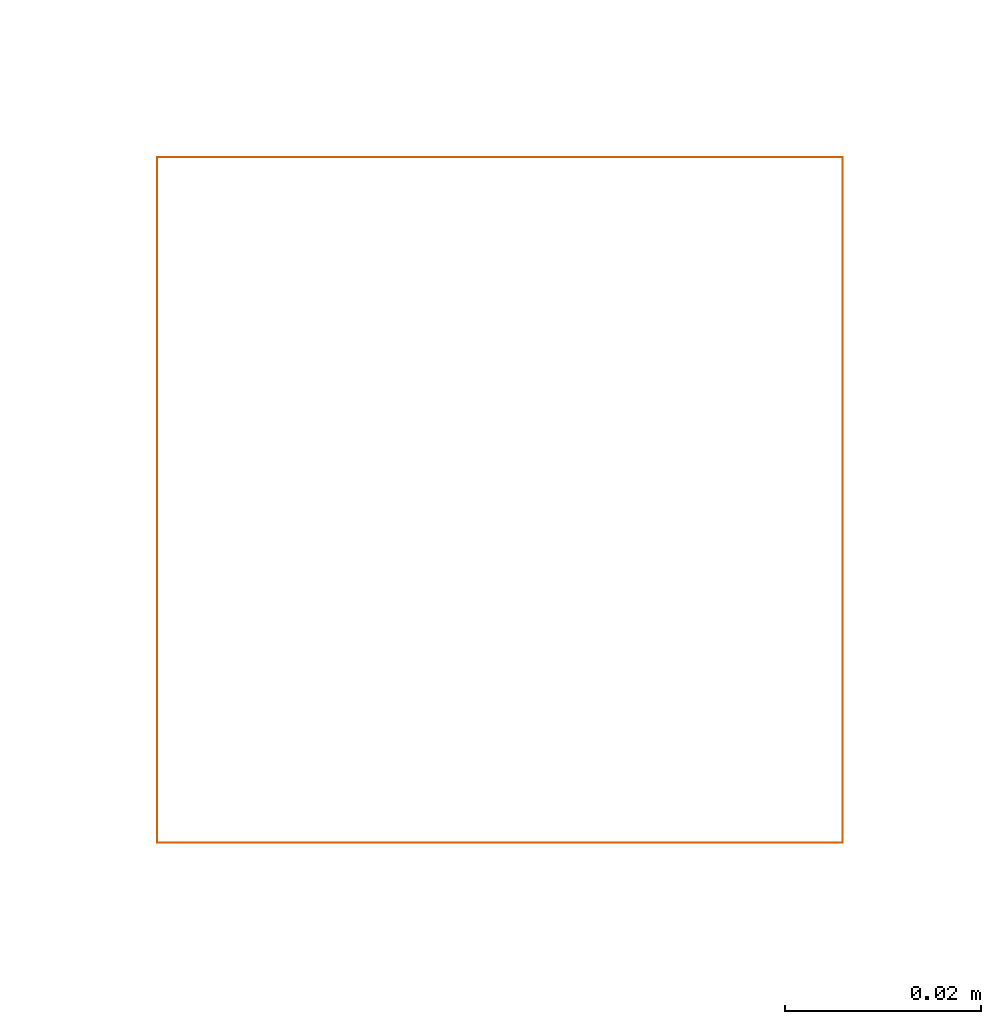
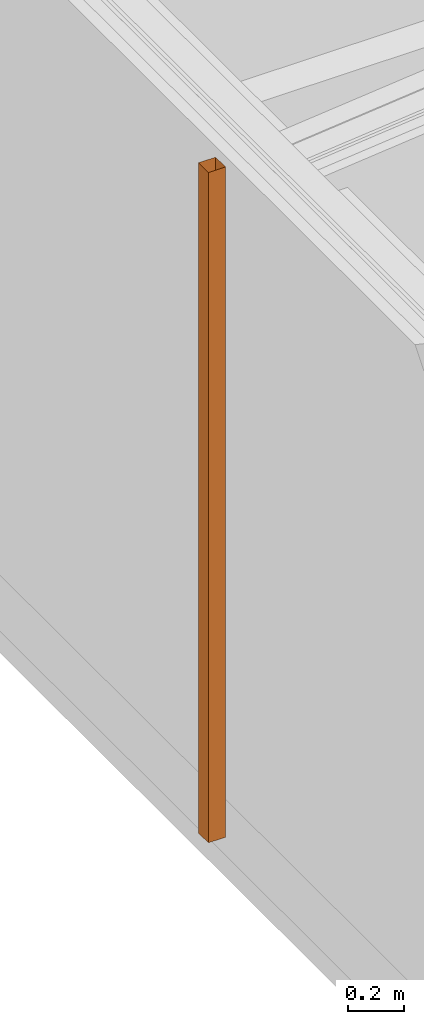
# One storey, part 75 of 112: 1 proxy.
"""IFC2X3 building model written with IfcOpenShell, lengths in millimetres."""

from ifc_helpers import new_model, entity, si_unit, converted_unit, derived_unit, money_unit, direction, frame, origin_with_axes, place, context, subcontext, project, spatial, open_shell, surface_model, source, transform, mapped, type_object, element, save


model = new_model("IFC2X3")

# Units and contexts
model_context = context("Model", 3, precision=0.01, world=origin_with_axes(), true_north=direction((0.0, 1.0)))
body_context = subcontext(model_context, "Body", "Model", "MODEL_VIEW")
ifc_project = project(units=[si_unit("LENGTHUNIT", "METRE", prefix="MILLI"), si_unit("AREAUNIT", "SQUARE_METRE"), si_unit("VOLUMEUNIT", "CUBIC_METRE"), converted_unit("PLANEANGLEUNIT", "DEGREE", entity("IfcPlaneAngleMeasure", 0.0174532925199), si_unit("PLANEANGLEUNIT", "RADIAN"), dimensions=[0, 0, 0, 0, 0, 0, 0]), si_unit("SOLIDANGLEUNIT", "STERADIAN"), money_unit("EUR"), converted_unit("TIMEUNIT", "Year", entity("IfcTimeMeasure", 31556926.0), si_unit("TIMEUNIT", "SECOND"), dimensions=[0, 0, 1, 0, 0, 0, 0]), si_unit("MASSUNIT", "GRAM", prefix="KILO"), si_unit("THERMODYNAMICTEMPERATUREUNIT", "DEGREE_CELSIUS"), si_unit("LUMINOUSINTENSITYUNIT", "LUMEN"), si_unit("ENERGYUNIT", "JOULE", prefix="MEGA"), derived_unit("THERMALCONDUCTANCEUNIT", [(si_unit("POWERUNIT", "WATT"), 1), (si_unit("LENGTHUNIT", "METRE"), -1), (si_unit("THERMODYNAMICTEMPERATUREUNIT", "KELVIN"), -1)]), derived_unit("SPECIFICHEATCAPACITYUNIT", [(si_unit("ENERGYUNIT", "JOULE"), 1), (si_unit("MASSUNIT", "GRAM", prefix="KILO"), -1), (si_unit("THERMODYNAMICTEMPERATUREUNIT", "KELVIN"), -1)]), derived_unit("MASSDENSITYUNIT", [(si_unit("MASSUNIT", "GRAM", prefix="KILO"), 1), (si_unit("VOLUMEUNIT", "CUBIC_METRE"), -1)])], contexts=[model_context])

# Site, building, storey
site_placement = place(None, origin_with_axes())
site = spatial("IfcSite", under=ifc_project, at=site_placement, Name="Politse- ja Piirivalveameti ning Päästeameti ühishoone", CompositionType="ELEMENT")
building_placement = place(site_placement, origin_with_axes())
building = spatial("IfcBuilding", under=site, at=building_placement, Name="Politse- ja Piirivalveameti ning Päästeameti ühishoone", CompositionType="ELEMENT")
storey_placement = place(building_placement, origin_with_axes())
storey = spatial("IfcBuildingStorey", under=building, at=storey_placement, Name="Esimene korrus", CompositionType="ELEMENT", Elevation=0.0)

# Proxy
building_element_proxy_type = type_object("IfcBuildingElementProxyType", Name="Downspout 23", PredefinedType="NOTDEFINED")
shared_shape = source(origin_with_axes(), body_context, "Body", "SurfaceModel", [
    surface_model("IfcShellBasedSurfaceModel", [(-35.0, -50.0, 2900.0), (-35.0, 20.0, 2900.0), (-35.0, 20.0, 0.0), (-35.0, -50.0, 0.0), (35.0, 20.0, 2900.0), (35.0, 20.0, 0.0), (35.0, -50.0, 2900.0), (35.0, -50.0, 0.0)], [open_shell([[[0, 1, 2, 3]], [[1, 4, 5, 2]], [[6, 0, 3, 7]], [[4, 6, 7, 5]]])]),
])
proxy_placement = place(storey_placement, frame((46006.1947659, 60349.8510263, 192.551720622), z_axis=(0.0, 0.0, 1.0), x_axis=(0.0, -1.0, 0.0)))
element("IfcBuildingElementProxy", 1, at=proxy_placement, inside=storey, type_object=building_element_proxy_type, Name="VIHMAVEETORU 1", context=body_context, shape_type="MappedRepresentation", body=[
    mapped(shared_shape, transform((0.0, 0.0, 0.0))),
])

save(model, "model.ifc")
